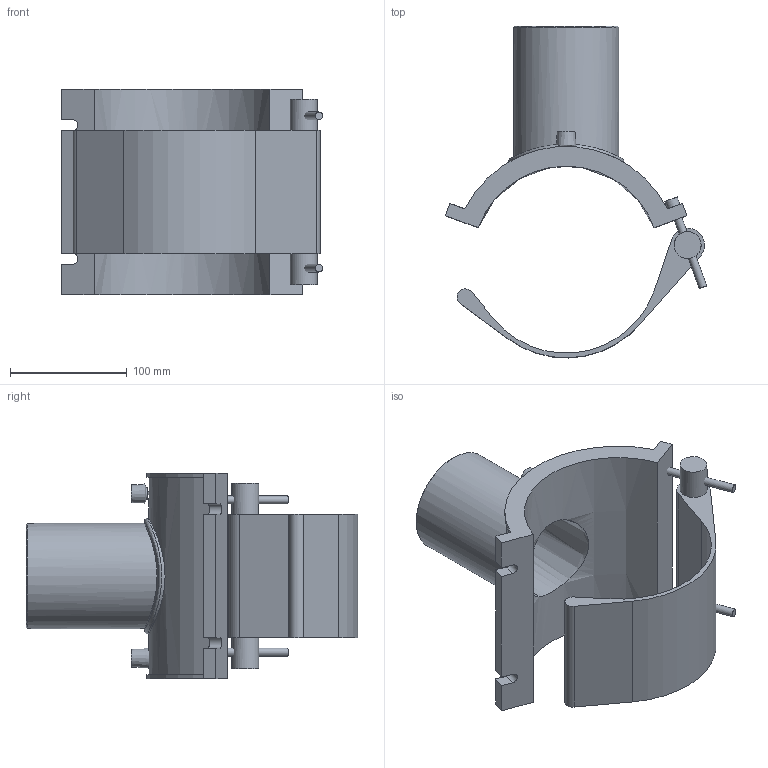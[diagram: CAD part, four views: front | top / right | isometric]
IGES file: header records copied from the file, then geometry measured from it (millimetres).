
Global section: file name: 495804160090.ipt; native system: Autodesk Inventor 2015; preprocessor: unknown; author: KIM; date: 20180426.120853; units: millimetre
Bounding box: 223.6 x 283.98 x 176 mm (x, y, z)
Volume: 1108107.2 mm3; surface area: 226851.1 mm2
Topology: 5 solids, 5 shells, 65 faces, 135 edges, 91 vertices
Faces by surface type: plane 37, cylinder 17, revolution 7, cone 3, bspline 1
Full cylindrical faces by diameter (mm): 4 x2, 6.72 x2, 11.2 x2, 23.04 x2, 90 x1, 99 x1
